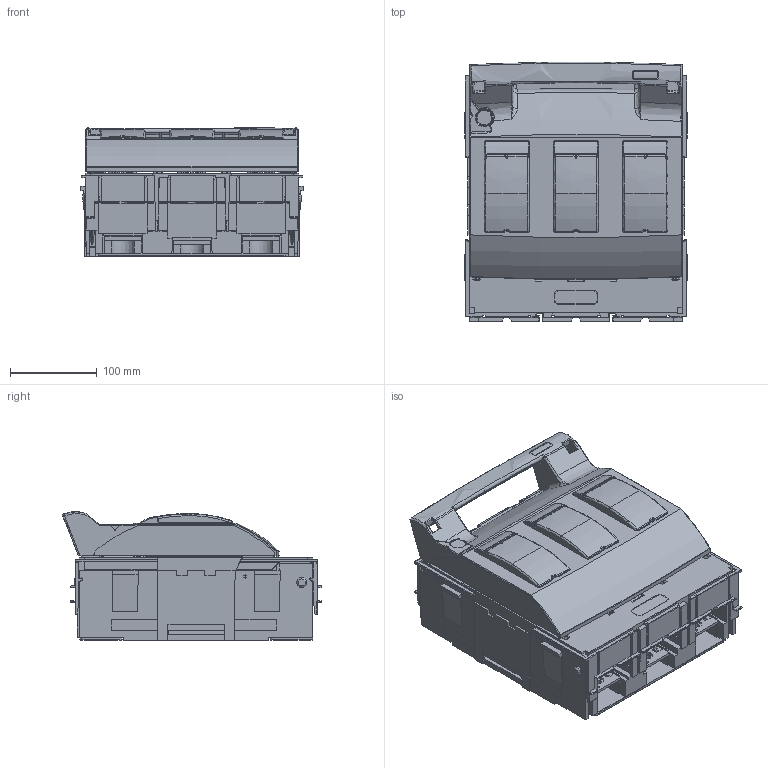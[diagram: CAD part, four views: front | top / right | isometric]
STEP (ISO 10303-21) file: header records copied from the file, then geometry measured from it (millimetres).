
FILE_DESCRIPTION (( 'STEP AP203' ), '1' );
FILE_NAME ('3ST8-3p.STEP', '2014-04-11T06:49:51', ( 'admin' ), ( '' ), 'SwSTEP 2.0', 'SolidWorks 2007', '' );
FILE_SCHEMA (( 'CONFIG_CONTROL_DESIGN' ));
Products named in the file (1): 3ST8-3p
Bounding box: 257 x 299.52 x 148.9 mm (x, y, z)
Volume: 124730.1 mm3; surface area: 932362.1 mm2
Topology: 27 solids, 28 shells, 6624 faces, 17977 edges, 11190 vertices
Faces by surface type: plane 3244, cylinder 1801, bspline 1259, cone 312, torus 8
Entity records: 245780 total; most frequent: CARTESIAN_POINT 92004, ORIENTED_EDGE 35546, DIRECTION 27177, EDGE_CURVE 17773, VERTEX_POINT 11190, VECTOR 10819, LINE 10819, AXIS2_PLACEMENT_3D 8179
